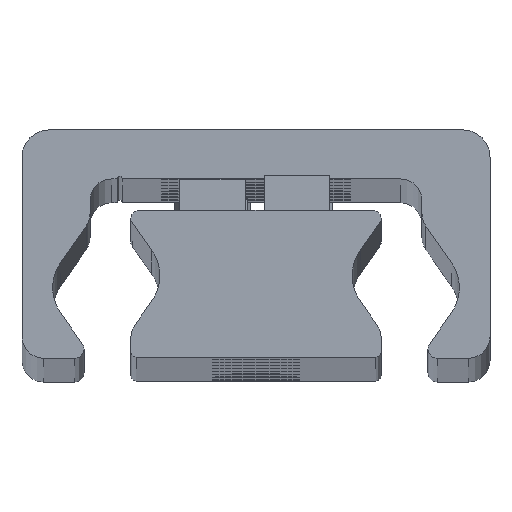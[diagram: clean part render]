
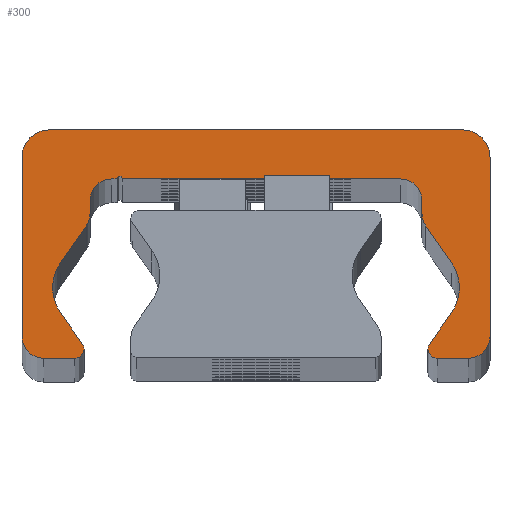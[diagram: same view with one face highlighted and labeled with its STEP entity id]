
A CAD part, top view. The second image highlights one B-rep face of the part: STEP entity #300.
In plain terms, the highlighted planar face has unit normal (0, 0, 1).
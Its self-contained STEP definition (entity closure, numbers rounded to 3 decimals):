
#300=ADVANCED_FACE('',(#842),#843,.T.);
#842=FACE_OUTER_BOUND('',#1385,.T.);
#843=PLANE('',#1386);
#1385=EDGE_LOOP('',(#3210,#3211,#3212,#3213,#3214,#3215,#3216,#3217,#3218,#3219,#3220,#3221,#3222,#3223,#3224,#3225,#3226,#3227,#3228,#3229,#3230,#3231,#3232,#3233,#3234,#3235,#3236,#3237,#3238,#3239));
#1386=AXIS2_PLACEMENT_3D('',#3240,#3241,#3242);
#3210=ORIENTED_EDGE('',*,*,#3599,.F.);
#3211=ORIENTED_EDGE('',*,*,#3862,.F.);
#3212=ORIENTED_EDGE('',*,*,#3585,.F.);
#3213=ORIENTED_EDGE('',*,*,#3861,.F.);
#3214=ORIENTED_EDGE('',*,*,#3857,.F.);
#3215=ORIENTED_EDGE('',*,*,#3854,.F.);
#3216=ORIENTED_EDGE('',*,*,#3851,.F.);
#3217=ORIENTED_EDGE('',*,*,#3848,.F.);
#3218=ORIENTED_EDGE('',*,*,#3845,.F.);
#3219=ORIENTED_EDGE('',*,*,#3842,.F.);
#3220=ORIENTED_EDGE('',*,*,#3839,.F.);
#3221=ORIENTED_EDGE('',*,*,#3836,.F.);
#3222=ORIENTED_EDGE('',*,*,#3833,.F.);
#3223=ORIENTED_EDGE('',*,*,#3830,.F.);
#3224=ORIENTED_EDGE('',*,*,#3591,.F.);
#3225=ORIENTED_EDGE('',*,*,#3828,.F.);
#3226=ORIENTED_EDGE('',*,*,#3593,.F.);
#3227=ORIENTED_EDGE('',*,*,#3827,.F.);
#3228=ORIENTED_EDGE('',*,*,#3823,.F.);
#3229=ORIENTED_EDGE('',*,*,#3820,.F.);
#3230=ORIENTED_EDGE('',*,*,#3817,.F.);
#3231=ORIENTED_EDGE('',*,*,#3814,.F.);
#3232=ORIENTED_EDGE('',*,*,#3811,.F.);
#3233=ORIENTED_EDGE('',*,*,#3808,.F.);
#3234=ORIENTED_EDGE('',*,*,#3805,.F.);
#3235=ORIENTED_EDGE('',*,*,#3802,.F.);
#3236=ORIENTED_EDGE('',*,*,#3799,.F.);
#3237=ORIENTED_EDGE('',*,*,#3796,.F.);
#3238=ORIENTED_EDGE('',*,*,#3793,.F.);
#3239=ORIENTED_EDGE('',*,*,#3790,.F.);
#3240=CARTESIAN_POINT('',(-0.023,14.187,612.0));
#3241=DIRECTION('',(0.0,0.0,1.0));
#3242=DIRECTION('',(1.0,0.0,0.0));
#3585=EDGE_CURVE('',#4356,#4359,#4360,.T.);
#3591=EDGE_CURVE('',#4369,#4365,#4371,.T.);
#3593=EDGE_CURVE('',#4372,#4375,#4376,.T.);
#3599=EDGE_CURVE('',#4385,#4381,#4387,.T.);
#3790=EDGE_CURVE('',#4381,#4694,#4695,.T.);
#3793=EDGE_CURVE('',#4694,#4699,#4700,.T.);
#3796=EDGE_CURVE('',#4699,#4704,#4705,.T.);
#3799=EDGE_CURVE('',#4704,#4709,#4710,.T.);
#3802=EDGE_CURVE('',#4709,#4714,#4715,.T.);
#3805=EDGE_CURVE('',#4714,#4719,#4720,.T.);
#3808=EDGE_CURVE('',#4719,#4724,#4725,.T.);
#3811=EDGE_CURVE('',#4724,#4729,#4730,.T.);
#3814=EDGE_CURVE('',#4729,#4734,#4735,.T.);
#3817=EDGE_CURVE('',#4734,#4739,#4740,.T.);
#3820=EDGE_CURVE('',#4739,#4744,#4745,.T.);
#3823=EDGE_CURVE('',#4744,#4749,#4750,.T.);
#3827=EDGE_CURVE('',#4749,#4372,#4755,.T.);
#3828=EDGE_CURVE('',#4375,#4369,#4756,.T.);
#3830=EDGE_CURVE('',#4365,#4758,#4759,.T.);
#3833=EDGE_CURVE('',#4758,#4763,#4764,.T.);
#3836=EDGE_CURVE('',#4763,#4768,#4769,.T.);
#3839=EDGE_CURVE('',#4768,#4773,#4774,.T.);
#3842=EDGE_CURVE('',#4773,#4778,#4779,.T.);
#3845=EDGE_CURVE('',#4778,#4783,#4784,.T.);
#3848=EDGE_CURVE('',#4783,#4788,#4789,.T.);
#3851=EDGE_CURVE('',#4788,#4793,#4794,.T.);
#3854=EDGE_CURVE('',#4793,#4798,#4799,.T.);
#3857=EDGE_CURVE('',#4798,#4803,#4804,.T.);
#3861=EDGE_CURVE('',#4803,#4356,#4809,.T.);
#3862=EDGE_CURVE('',#4359,#4385,#4810,.T.);
#4356=VERTEX_POINT('',#5460);
#4359=VERTEX_POINT('',#5464);
#4360=CIRCLE('',#5465,0.85);
#4365=VERTEX_POINT('',#5471);
#4369=VERTEX_POINT('',#5476);
#4371=CIRCLE('',#5479,0.85);
#4372=VERTEX_POINT('',#5480);
#4375=VERTEX_POINT('',#5484);
#4376=CIRCLE('',#5485,4.);
#4381=VERTEX_POINT('',#5491);
#4385=VERTEX_POINT('',#5496);
#4387=CIRCLE('',#5499,4.);
#4694=VERTEX_POINT('',#5896);
#4695=CIRCLE('',#5897,4.);
#4699=VERTEX_POINT('',#5902);
#4700=LINE('',#5903,#5904);
#4704=VERTEX_POINT('',#5910);
#4705=CIRCLE('',#5911,2.);
#4709=VERTEX_POINT('',#5916);
#4710=LINE('',#5917,#5918);
#4714=VERTEX_POINT('',#5924);
#4715=CIRCLE('',#5925,2.0);
#4719=VERTEX_POINT('',#5930);
#4720=LINE('',#5931,#5932);
#4724=VERTEX_POINT('',#5938);
#4725=CIRCLE('',#5939,0.25);
#4729=VERTEX_POINT('',#5944);
#4730=LINE('',#5945,#5946);
#4734=VERTEX_POINT('',#5952);
#4735=CIRCLE('',#5953,2.0);
#4739=VERTEX_POINT('',#5958);
#4740=LINE('',#5959,#5960);
#4744=VERTEX_POINT('',#5966);
#4745=CIRCLE('',#5967,2.0);
#4749=VERTEX_POINT('',#5972);
#4750=LINE('',#5973,#5974);
#4755=CIRCLE('',#5981,4.);
#4756=LINE('',#5982,#5983);
#4758=VERTEX_POINT('',#5986);
#4759=CIRCLE('',#5987,0.85);
#4763=VERTEX_POINT('',#5992);
#4764=LINE('',#5993,#5994);
#4768=VERTEX_POINT('',#6000);
#4769=CIRCLE('',#6001,2.);
#4773=VERTEX_POINT('',#6006);
#4774=LINE('',#6007,#6008);
#4778=VERTEX_POINT('',#6014);
#4779=CIRCLE('',#6015,2.5);
#4783=VERTEX_POINT('',#6020);
#4784=LINE('',#6021,#6022);
#4788=VERTEX_POINT('',#6028);
#4789=CIRCLE('',#6029,2.5);
#4793=VERTEX_POINT('',#6034);
#4794=LINE('',#6035,#6036);
#4798=VERTEX_POINT('',#6042);
#4799=CIRCLE('',#6043,2.);
#4803=VERTEX_POINT('',#6048);
#4804=LINE('',#6049,#6050);
#4809=CIRCLE('',#6057,0.85);
#4810=LINE('',#6058,#6059);
#5460=CARTESIAN_POINT('',(15.8,1.859,612.0));
#5464=CARTESIAN_POINT('',(15.922,2.298,612.0));
#5465=AXIS2_PLACEMENT_3D('',#6675,#6676,#6677);
#5471=CARTESIAN_POINT('',(-15.8,1.859,612.0));
#5476=CARTESIAN_POINT('',(-15.922,2.298,612.0));
#5479=AXIS2_PLACEMENT_3D('',#6687,#6688,#6689);
#5480=CARTESIAN_POINT('',(-18.688,7.509,612.0));
#5484=CARTESIAN_POINT('',(-17.964,5.214,612.0));
#5485=AXIS2_PLACEMENT_3D('',#6691,#6692,#6693);
#5491=CARTESIAN_POINT('',(18.688,7.509,612.0));
#5496=CARTESIAN_POINT('',(17.964,5.214,612.0));
#5499=AXIS2_PLACEMENT_3D('',#6703,#6704,#6705);
#5896=CARTESIAN_POINT('',(17.964,9.803,612.0));
#5897=AXIS2_PLACEMENT_3D('',#7096,#7097,#7098);
#5902=CARTESIAN_POINT('',(15.612,13.163,612.0));
#5903=CARTESIAN_POINT('',(15.612,13.163,612.0));
#5904=VECTOR('',#7103,1.0);
#5910=CARTESIAN_POINT('',(15.25,14.31,612.0));
#5911=AXIS2_PLACEMENT_3D('',#7106,#7107,#7108);
#5916=CARTESIAN_POINT('',(15.25,15.509,612.0));
#5917=CARTESIAN_POINT('',(15.25,15.509,612.0));
#5918=VECTOR('',#7113,1.0);
#5924=CARTESIAN_POINT('',(13.25,17.509,612.0));
#5925=AXIS2_PLACEMENT_3D('',#7116,#7117,#7118);
#5930=CARTESIAN_POINT('',(-12.25,17.509,612.0));
#5931=CARTESIAN_POINT('',(-12.25,17.509,612.0));
#5932=VECTOR('',#7123,1.0);
#5938=CARTESIAN_POINT('',(-12.75,17.509,612.0));
#5939=AXIS2_PLACEMENT_3D('',#7126,#7127,#7128);
#5944=CARTESIAN_POINT('',(-13.25,17.509,612.0));
#5945=CARTESIAN_POINT('',(-13.25,17.509,612.0));
#5946=VECTOR('',#7133,1.0);
#5952=CARTESIAN_POINT('',(-15.25,15.509,612.0));
#5953=AXIS2_PLACEMENT_3D('',#7136,#7137,#7138);
#5958=CARTESIAN_POINT('',(-15.25,14.31,612.0));
#5959=CARTESIAN_POINT('',(-15.25,14.31,612.0));
#5960=VECTOR('',#7143,1.0);
#5966=CARTESIAN_POINT('',(-15.612,13.163,612.0));
#5967=AXIS2_PLACEMENT_3D('',#7146,#7147,#7148);
#5972=CARTESIAN_POINT('',(-17.964,9.803,612.0));
#5973=CARTESIAN_POINT('',(-17.964,9.803,612.0));
#5974=VECTOR('',#7153,1.);
#5981=AXIS2_PLACEMENT_3D('',#7159,#7160,#7161);
#5982=CARTESIAN_POINT('',(-15.922,2.298,612.0));
#5983=VECTOR('',#7162,1.0);
#5986=CARTESIAN_POINT('',(-16.65,1.009,612.0));
#5987=AXIS2_PLACEMENT_3D('',#7164,#7165,#7166);
#5992=CARTESIAN_POINT('',(-19.5,1.009,612.0));
#5993=CARTESIAN_POINT('',(-19.5,1.009,612.0));
#5994=VECTOR('',#7171,1.0);
#6000=CARTESIAN_POINT('',(-21.5,3.009,612.0));
#6001=AXIS2_PLACEMENT_3D('',#7174,#7175,#7176);
#6006=CARTESIAN_POINT('',(-21.5,19.509,612.0));
#6007=CARTESIAN_POINT('',(-21.5,19.509,612.0));
#6008=VECTOR('',#7181,1.0);
#6014=CARTESIAN_POINT('',(-19.0,22.009,612.0));
#6015=AXIS2_PLACEMENT_3D('',#7184,#7185,#7186);
#6020=CARTESIAN_POINT('',(19.0,22.009,612.0));
#6021=CARTESIAN_POINT('',(19.0,22.009,612.0));
#6022=VECTOR('',#7191,1.0);
#6028=CARTESIAN_POINT('',(21.5,19.509,612.0));
#6029=AXIS2_PLACEMENT_3D('',#7194,#7195,#7196);
#6034=CARTESIAN_POINT('',(21.5,3.009,612.0));
#6035=CARTESIAN_POINT('',(21.5,3.009,612.0));
#6036=VECTOR('',#7201,1.0);
#6042=CARTESIAN_POINT('',(19.5,1.009,612.0));
#6043=AXIS2_PLACEMENT_3D('',#7204,#7205,#7206);
#6048=CARTESIAN_POINT('',(16.65,1.009,612.0));
#6049=CARTESIAN_POINT('',(16.65,1.009,612.0));
#6050=VECTOR('',#7211,1.0);
#6057=AXIS2_PLACEMENT_3D('',#7217,#7218,#7219);
#6058=CARTESIAN_POINT('',(17.964,5.214,612.0));
#6059=VECTOR('',#7220,1.0);
#6675=CARTESIAN_POINT('',(16.65,1.859,612.0));
#6676=DIRECTION('',(0.0,0.0,-1.0));
#6677=DIRECTION('',(1.0,0.0,0.0));
#6687=CARTESIAN_POINT('',(-16.65,1.859,612.0));
#6688=DIRECTION('',(0.0,0.0,-1.0));
#6689=DIRECTION('',(1.0,0.0,0.0));
#6691=CARTESIAN_POINT('',(-14.688,7.509,612.0));
#6692=DIRECTION('',(0.0,0.0,1.0));
#6693=DIRECTION('',(1.0,0.0,0.0));
#6703=CARTESIAN_POINT('',(14.688,7.509,612.0));
#6704=DIRECTION('',(0.0,0.0,1.0));
#6705=DIRECTION('',(1.0,0.0,0.0));
#7096=CARTESIAN_POINT('',(14.688,7.509,612.0));
#7097=DIRECTION('',(0.0,0.0,1.0));
#7098=DIRECTION('',(1.0,0.0,0.0));
#7103=DIRECTION('',(-0.574,0.819,0.0));
#7106=CARTESIAN_POINT('',(17.25,14.31,612.0));
#7107=DIRECTION('',(0.0,0.0,-1.0));
#7108=DIRECTION('',(1.0,0.0,0.0));
#7113=DIRECTION('',(0.0,1.0,0.0));
#7116=CARTESIAN_POINT('',(13.25,15.509,612.0));
#7117=DIRECTION('',(0.0,0.0,1.0));
#7118=DIRECTION('',(1.0,0.0,0.0));
#7123=DIRECTION('',(-1.0,-0.0,-0.0));
#7126=CARTESIAN_POINT('',(-12.5,17.509,612.0));
#7127=DIRECTION('',(0.0,0.0,1.0));
#7128=DIRECTION('',(1.0,0.0,0.0));
#7133=DIRECTION('',(-1.0,-0.0,-0.0));
#7136=CARTESIAN_POINT('',(-13.25,15.509,612.0));
#7137=DIRECTION('',(0.0,0.0,1.0));
#7138=DIRECTION('',(1.0,0.0,0.0));
#7143=DIRECTION('',(-0.0,-1.0,-0.0));
#7146=CARTESIAN_POINT('',(-17.25,14.31,612.0));
#7147=DIRECTION('',(0.0,0.0,-1.0));
#7148=DIRECTION('',(1.0,0.0,0.0));
#7153=DIRECTION('',(-0.574,-0.819,-0.0));
#7159=CARTESIAN_POINT('',(-14.688,7.509,612.0));
#7160=DIRECTION('',(0.0,0.0,1.0));
#7161=DIRECTION('',(1.0,0.0,0.0));
#7162=DIRECTION('',(0.574,-0.819,0.0));
#7164=CARTESIAN_POINT('',(-16.65,1.859,612.0));
#7165=DIRECTION('',(0.0,0.0,-1.0));
#7166=DIRECTION('',(1.0,0.0,0.0));
#7171=DIRECTION('',(-1.0,-0.0,-0.0));
#7174=CARTESIAN_POINT('',(-19.5,3.009,612.0));
#7175=DIRECTION('',(0.0,0.0,-1.0));
#7176=DIRECTION('',(1.0,0.0,0.0));
#7181=DIRECTION('',(0.0,1.0,0.0));
#7184=CARTESIAN_POINT('',(-19.0,19.509,612.0));
#7185=DIRECTION('',(0.0,0.0,-1.0));
#7186=DIRECTION('',(1.0,0.0,0.0));
#7191=DIRECTION('',(1.0,0.0,0.0));
#7194=CARTESIAN_POINT('',(19.0,19.509,612.0));
#7195=DIRECTION('',(0.0,0.0,-1.0));
#7196=DIRECTION('',(1.0,0.0,0.0));
#7201=DIRECTION('',(-0.0,-1.0,-0.0));
#7204=CARTESIAN_POINT('',(19.5,3.009,612.0));
#7205=DIRECTION('',(0.0,0.0,-1.0));
#7206=DIRECTION('',(1.0,0.0,0.0));
#7211=DIRECTION('',(-1.0,-0.0,-0.0));
#7217=CARTESIAN_POINT('',(16.65,1.859,612.0));
#7218=DIRECTION('',(0.0,0.0,-1.0));
#7219=DIRECTION('',(1.0,0.0,0.0));
#7220=DIRECTION('',(0.574,0.819,0.0));
